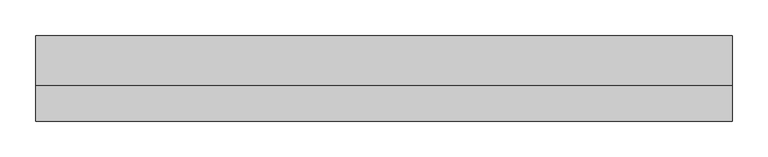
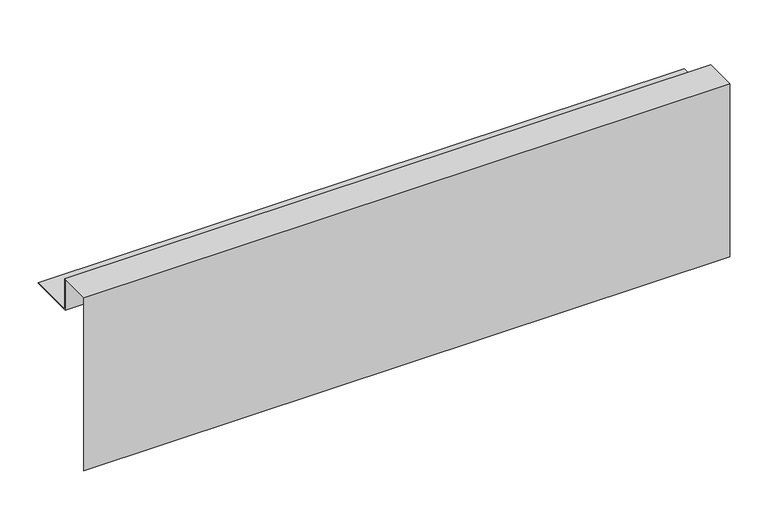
"""IFC4 building model written with IfcOpenShell, lengths in millimetres: proxy geometry, Верхний откос : Тип."""

from ifc_helpers import new_model, si_unit, frame, origin, place, context, project, spatial, polyline, outline, extrude, source, transform, mapped, element, save


def generic_models_9d7912f3(model_context):
    return source(origin(), model_context, "Body", "SweptSolid", [
        extrude(outline(polyline([(-1.0, -19.2), (69.0, -19.2), (69.0, -20.0), (-1.8, -20.0), (-1.8, 29.2), (-50.2, 29.2), (-50.2, -247.0), (-51.0, -247.0), (-51.0, 30.0), (-1.0, 30.0), (-1.0, -19.2)])), frame((0.0, 0.0, 0.0), z_axis=(1.0, 0.0, 0.0), x_axis=(0.0, 1.0, 0.0)), (0.0, 0.0, 1.0), 977.0),
    ])


if __name__ == "__main__":
    model = new_model("IFC4")
    model_context = context("Model", 3, world=origin())
    ifc_project = project(units=[si_unit("LENGTHUNIT", "METRE", prefix="MILLI")], contexts=[model_context])
    site = spatial("IfcSite", under=ifc_project)
    building = spatial("IfcBuilding", under=site)
    placement = place(None, origin())
    generic_models_shape = generic_models_9d7912f3(model_context)
    element("IfcBuildingElementProxy", 1, Name="Верхний откос : Тип", ObjectType="Верхний откос : Тип", at=placement, inside=building, context=model_context, shape_type="MappedRepresentation", body=[
        mapped(generic_models_shape, transform((0.0, 0.0, 0.0), x_axis=(1.0, 0.0, 0.0), y_axis=(0.0, 1.0, 0.0), z_axis=(0.0, 0.0, 1.0))),
    ])
    save(model, "model.ifc")
